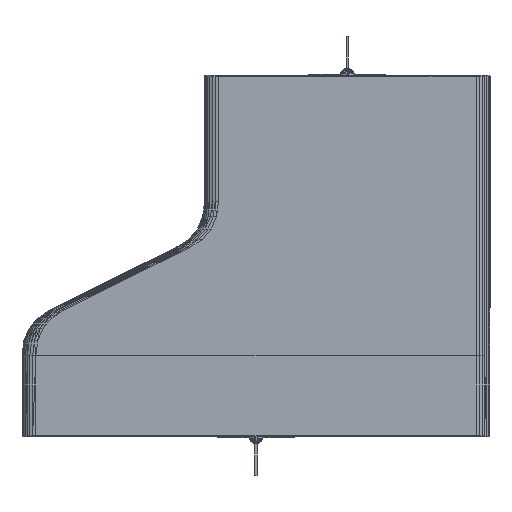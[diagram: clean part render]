
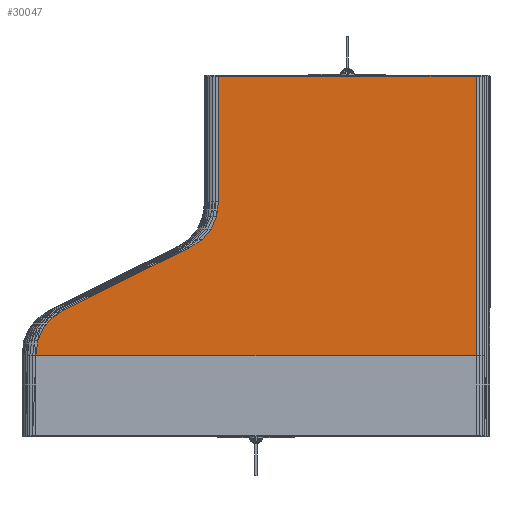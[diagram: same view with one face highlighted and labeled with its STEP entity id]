
A CAD part, front view. The second image highlights one B-rep face of the part: STEP entity #30047.
In plain terms, the highlighted planar face has unit normal (0, -1, 0).
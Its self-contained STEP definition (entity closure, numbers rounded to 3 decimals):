
#7878 = VERTEX_POINT('',#7879);
#7879 = CARTESIAN_POINT('',(213.48,0.,187.706));
#12495 = VERTEX_POINT('',#12496);
#12496 = CARTESIAN_POINT('',(92.321,0.,187.706));
#16713 = EDGE_CURVE('',#12495,#7878,#16714,.T.);
#16714 = LINE('',#16715,#16716);
#16715 = CARTESIAN_POINT('',(92.321,0.,187.706));
#16716 = VECTOR('',#16717,1.);
#16717 = DIRECTION('',(1.,0.,0.));
#21877 = VERTEX_POINT('',#21878);
#21878 = CARTESIAN_POINT('',(19.979,0.,78.024));
#21884 = EDGE_CURVE('',#21885,#21877,#21887,.T.);
#21885 = VERTEX_POINT('',#21886);
#21886 = CARTESIAN_POINT('',(78.862,0.,107.147));
#21887 = LINE('',#21888,#21889);
#21888 = CARTESIAN_POINT('',(78.862,0.,107.147));
#21889 = VECTOR('',#21890,1.);
#21890 = DIRECTION('',(-0.896,0.,-0.443));
#22566 = EDGE_CURVE('',#21877,#22567,#22569,.T.);
#22567 = VERTEX_POINT('',#22568);
#22568 = CARTESIAN_POINT('',(14.09,0.,74.173));
#22569 = LINE('',#22570,#22571);
#22570 = CARTESIAN_POINT('',(19.979,0.,78.024));
#22571 = VECTOR('',#22572,1.);
#22572 = DIRECTION('',(-0.837,0.,-0.547));
#23416 = VERTEX_POINT('',#23417);
#23417 = CARTESIAN_POINT('',(6.52,0.,56.352));
#27485 = EDGE_CURVE('',#27486,#23416,#27488,.T.);
#27486 = VERTEX_POINT('',#27487);
#27487 = CARTESIAN_POINT('',(7.361,0.,63.338));
#27488 = LINE('',#27489,#27490);
#27489 = CARTESIAN_POINT('',(7.361,0.,63.338));
#27490 = VECTOR('',#27491,1.);
#27491 = DIRECTION('',(-0.12,0.,-0.993));
#27800 = EDGE_CURVE('',#27801,#27486,#27803,.T.);
#27801 = VERTEX_POINT('',#27802);
#27802 = CARTESIAN_POINT('',(9.885,0.,69.278));
#27803 = LINE('',#27804,#27805);
#27804 = CARTESIAN_POINT('',(9.885,0.,69.278));
#27805 = VECTOR('',#27806,1.);
#27806 = DIRECTION('',(-0.391,0.,-0.92));
#27846 = EDGE_CURVE('',#22567,#27801,#27847,.T.);
#27847 = LINE('',#27848,#27849);
#27848 = CARTESIAN_POINT('',(14.09,0.,74.173));
#27849 = VECTOR('',#27850,1.);
#27850 = DIRECTION('',(-0.652,0.,-0.759));
#30047 = ADVANCED_FACE('',(#30048),#30108,.T.);
#30048 = FACE_BOUND('',#30049,.T.);
#30049 = EDGE_LOOP('',(#30050,#30051,#30059,#30067,#30075,#30083,#30089,
    #30090,#30091,#30092,#30093,#30094,#30102));
#30050 = ORIENTED_EDGE('',*,*,#16713,.F.);
#30051 = ORIENTED_EDGE('',*,*,#30052,.T.);
#30052 = EDGE_CURVE('',#12495,#30053,#30055,.T.);
#30053 = VERTEX_POINT('',#30054);
#30054 = CARTESIAN_POINT('',(92.321,0.,128.819));
#30055 = LINE('',#30056,#30057);
#30056 = CARTESIAN_POINT('',(92.321,0.,187.706));
#30057 = VECTOR('',#30058,1.);
#30058 = DIRECTION('',(0.,0.,-1.));
#30059 = ORIENTED_EDGE('',*,*,#30060,.T.);
#30060 = EDGE_CURVE('',#30053,#30061,#30063,.T.);
#30061 = VERTEX_POINT('',#30062);
#30062 = CARTESIAN_POINT('',(91.479,0.,121.834));
#30063 = LINE('',#30064,#30065);
#30064 = CARTESIAN_POINT('',(92.321,0.,128.819));
#30065 = VECTOR('',#30066,1.);
#30066 = DIRECTION('',(-0.12,0.,-0.993));
#30067 = ORIENTED_EDGE('',*,*,#30068,.T.);
#30068 = EDGE_CURVE('',#30061,#30069,#30071,.T.);
#30069 = VERTEX_POINT('',#30070);
#30070 = CARTESIAN_POINT('',(88.956,0.,115.894));
#30071 = LINE('',#30072,#30073);
#30072 = CARTESIAN_POINT('',(91.479,0.,121.834));
#30073 = VECTOR('',#30074,1.);
#30074 = DIRECTION('',(-0.391,0.,-0.92));
#30075 = ORIENTED_EDGE('',*,*,#30076,.T.);
#30076 = EDGE_CURVE('',#30069,#30077,#30079,.T.);
#30077 = VERTEX_POINT('',#30078);
#30078 = CARTESIAN_POINT('',(84.75,0.,110.998));
#30079 = LINE('',#30080,#30081);
#30080 = CARTESIAN_POINT('',(88.956,0.,115.894));
#30081 = VECTOR('',#30082,1.);
#30082 = DIRECTION('',(-0.652,0.,-0.759));
#30083 = ORIENTED_EDGE('',*,*,#30084,.T.);
#30084 = EDGE_CURVE('',#30077,#21885,#30085,.T.);
#30085 = LINE('',#30086,#30087);
#30086 = CARTESIAN_POINT('',(84.75,0.,110.998));
#30087 = VECTOR('',#30088,1.);
#30088 = DIRECTION('',(-0.837,0.,-0.547));
#30089 = ORIENTED_EDGE('',*,*,#21884,.T.);
#30090 = ORIENTED_EDGE('',*,*,#22566,.T.);
#30091 = ORIENTED_EDGE('',*,*,#27846,.T.);
#30092 = ORIENTED_EDGE('',*,*,#27800,.T.);
#30093 = ORIENTED_EDGE('',*,*,#27485,.T.);
#30094 = ORIENTED_EDGE('',*,*,#30095,.F.);
#30095 = EDGE_CURVE('',#30096,#23416,#30098,.T.);
#30096 = VERTEX_POINT('',#30097);
#30097 = CARTESIAN_POINT('',(213.48,0.,56.352));
#30098 = LINE('',#30099,#30100);
#30099 = CARTESIAN_POINT('',(213.48,0.,56.352));
#30100 = VECTOR('',#30101,1.);
#30101 = DIRECTION('',(-1.,0.,0.));
#30102 = ORIENTED_EDGE('',*,*,#30103,.T.);
#30103 = EDGE_CURVE('',#30096,#7878,#30104,.T.);
#30104 = LINE('',#30105,#30106);
#30105 = CARTESIAN_POINT('',(213.48,0.,56.352));
#30106 = VECTOR('',#30107,1.);
#30107 = DIRECTION('',(0.,0.,1.));
#30108 = PLANE('',#30109);
#30109 = AXIS2_PLACEMENT_3D('',#30110,#30111,#30112);
#30110 = CARTESIAN_POINT('',(126.459,0.,111.02));
#30111 = DIRECTION('',(-0.,-1.,-0.));
#30112 = DIRECTION('',(0.,0.,-1.));
